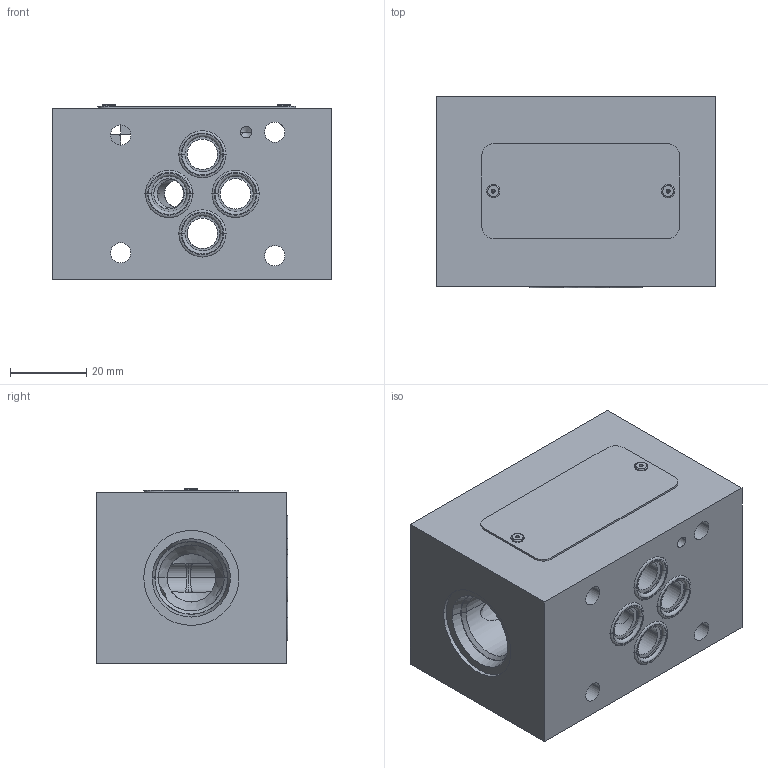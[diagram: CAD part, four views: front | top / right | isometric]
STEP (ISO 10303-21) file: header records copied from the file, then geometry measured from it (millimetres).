
FILE_DESCRIPTION((''),'2;1');
FILE_NAME('29513200_ASM','2023-10-12T',('l.soukupova'),(''),'PRO/ENGINEER BY PARAMETRIC TECHNOLOGY CORPORATION, 2015440','PRO/ENGINEER BY PARAMETRIC TECHNOLOGY CORPORATION, 2015440','');
FILE_SCHEMA(('AUTOMOTIVE_DESIGN { 1 0 10303 214 1 1 1 1 }'));
Length unit declared in the file: millimetre
Products named in the file (8): 29513302; RD_LABEL_25X52_159703; AF_1932_16485; ORAR00012_201524_AF0; ORAR00012_201524_AF1; ORAR00012_201524_AF2; ORAR00012_201524_AF3; 29513200_ASM
Assembly tree (8 placements, depth 2):
  29513200_ASM
    29513302
    RD_LABEL_25X52_159703
    AF_1932_16485  x2
    ORAR00012_201524_AF0
    ORAR00012_201524_AF1
    ORAR00012_201524_AF2
    ORAR00012_201524_AF3
Bounding box: 73.5 x 50.38 x 46 mm (x, y, z)
Volume: 143904.1 mm3; surface area: 32747.7 mm2
Topology: 8 solids, 11 shells, 178 faces, 555 edges, 467 vertices
Faces by surface type: cylinder 86, torus 36, plane 34, cone 22
Entity records: 10395 total; most frequent: CARTESIAN_POINT 2079, DIRECTION 1163, ORIENTED_EDGE 790, PRESENTATION_STYLE_ASSIGNMENT 680, STYLED_ITEM 579, CURVE_STYLE 570, AXIS2_PLACEMENT_3D 472, EDGE_CURVE 401
